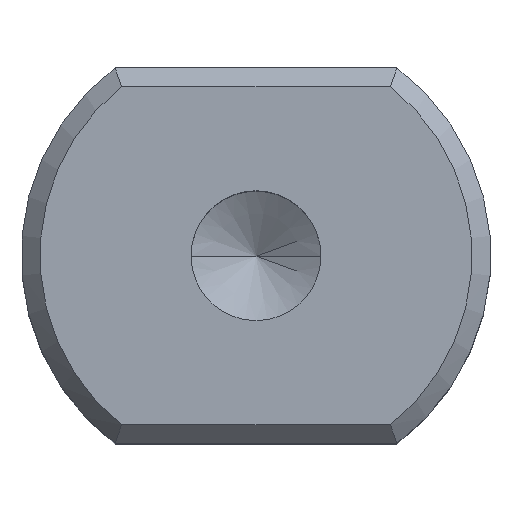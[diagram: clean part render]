
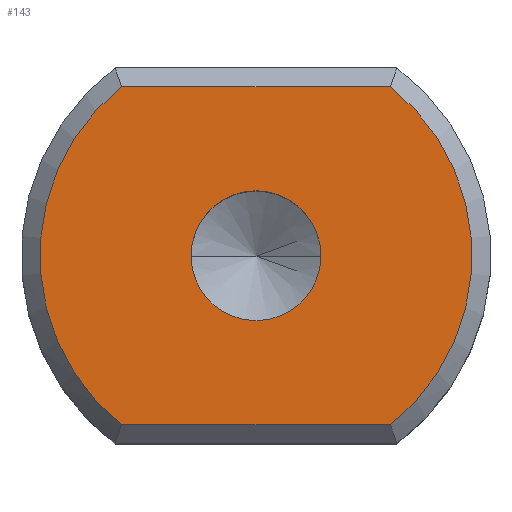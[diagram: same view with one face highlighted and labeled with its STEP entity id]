
A CAD part, top view. The second image highlights one B-rep face of the part: STEP entity #143.
In plain terms, the highlighted planar face has unit normal (0, 0, 1).
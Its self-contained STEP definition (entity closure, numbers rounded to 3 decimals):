
#2 = CIRCLE ( 'NONE', #425, 5.75 ) ;
#28 = EDGE_LOOP ( 'NONE', ( #259, #316 ) ) ;
#46 = VERTEX_POINT ( 'NONE', #683 ) ;
#50 = DIRECTION ( 'NONE',  ( 0., 1., 0. ) ) ;
#66 = DIRECTION ( 'NONE',  ( 0., 0., 1. ) ) ;
#91 = ORIENTED_EDGE ( 'NONE', *, *, #339, .T. ) ;
#99 = DIRECTION ( 'NONE',  ( 0., 0., 1. ) ) ;
#103 = DIRECTION ( 'NONE',  ( 0., 0., 1. ) ) ;
#106 = CARTESIAN_POINT ( 'NONE',  ( 0., 0., 0. ) ) ;
#127 = CARTESIAN_POINT ( 'NONE',  ( 1.727, 0., 0. ) ) ;
#129 = LINE ( 'NONE', #372, #355 ) ;
#132 = AXIS2_PLACEMENT_3D ( 'NONE', #106, #103, #573 ) ;
#135 = CARTESIAN_POINT ( 'NONE',  ( 3.579, 4.5, 0. ) ) ;
#143 = ADVANCED_FACE ( 'NONE', ( #448, #725 ), #267, .F. ) ;
#154 = VERTEX_POINT ( 'NONE', #554 ) ;
#163 = CARTESIAN_POINT ( 'NONE',  ( 0., 0., 0. ) ) ;
#165 = CIRCLE ( 'NONE', #132, 1.727 ) ;
#173 = ORIENTED_EDGE ( 'NONE', *, *, #691, .T. ) ;
#194 = CARTESIAN_POINT ( 'NONE',  ( -3.579, 4.5, 0. ) ) ;
#200 = LINE ( 'NONE', #545, #461 ) ;
#212 = VERTEX_POINT ( 'NONE', #747 ) ;
#221 = EDGE_CURVE ( 'NONE', #373, #268, #129, .T. ) ;
#243 = AXIS2_PLACEMENT_3D ( 'NONE', #366, #66, #485 ) ;
#259 = ORIENTED_EDGE ( 'NONE', *, *, #565, .F. ) ;
#267 = PLANE ( 'NONE',  #757 ) ;
#268 = VERTEX_POINT ( 'NONE', #194 ) ;
#297 = AXIS2_PLACEMENT_3D ( 'NONE', #396, #336, #753 ) ;
#316 = ORIENTED_EDGE ( 'NONE', *, *, #571, .F. ) ;
#318 = CARTESIAN_POINT ( 'NONE',  ( 0., 0., 0. ) ) ;
#336 = DIRECTION ( 'NONE',  ( 0., 0., 1. ) ) ;
#339 = EDGE_CURVE ( 'NONE', #154, #373, #420, .T. ) ;
#349 = EDGE_LOOP ( 'NONE', ( #427, #173, #91, #391 ) ) ;
#355 = VECTOR ( 'NONE', #603, 1000. ) ;
#366 = CARTESIAN_POINT ( 'NONE',  ( 0., 0., 0. ) ) ;
#372 = CARTESIAN_POINT ( 'NONE',  ( 0., 4.5, 0. ) ) ;
#373 = VERTEX_POINT ( 'NONE', #135 ) ;
#391 = ORIENTED_EDGE ( 'NONE', *, *, #221, .T. ) ;
#396 = CARTESIAN_POINT ( 'NONE',  ( 0., 0., 0. ) ) ;
#420 = CIRCLE ( 'NONE', #243, 5.75 ) ;
#425 = AXIS2_PLACEMENT_3D ( 'NONE', #163, #99, #50 ) ;
#427 = ORIENTED_EDGE ( 'NONE', *, *, #533, .T. ) ;
#431 = CIRCLE ( 'NONE', #297, 1.727 ) ;
#448 = FACE_BOUND ( 'NONE', #28, .T. ) ;
#461 = VECTOR ( 'NONE', #746, 1000. ) ;
#485 = DIRECTION ( 'NONE',  ( 0., 1., 0. ) ) ;
#502 = DIRECTION ( 'NONE',  ( 0., 1., 0. ) ) ;
#533 = EDGE_CURVE ( 'NONE', #268, #46, #2, .T. ) ;
#545 = CARTESIAN_POINT ( 'NONE',  ( 0., -4.5, 0. ) ) ;
#554 = CARTESIAN_POINT ( 'NONE',  ( 3.579, -4.5, 0. ) ) ;
#565 = EDGE_CURVE ( 'NONE', #681, #212, #431, .T. ) ;
#571 = EDGE_CURVE ( 'NONE', #212, #681, #165, .T. ) ;
#573 = DIRECTION ( 'NONE',  ( 1., 0., 0. ) ) ;
#603 = DIRECTION ( 'NONE',  ( -1., 0., 0. ) ) ;
#619 = DIRECTION ( 'NONE',  ( 0., 0., -1. ) ) ;
#681 = VERTEX_POINT ( 'NONE', #127 ) ;
#683 = CARTESIAN_POINT ( 'NONE',  ( -3.579, -4.5, 0. ) ) ;
#691 = EDGE_CURVE ( 'NONE', #46, #154, #200, .T. ) ;
#725 = FACE_OUTER_BOUND ( 'NONE', #349, .T. ) ;
#746 = DIRECTION ( 'NONE',  ( 1., 0., 0. ) ) ;
#747 = CARTESIAN_POINT ( 'NONE',  ( -1.727, 0., 0. ) ) ;
#753 = DIRECTION ( 'NONE',  ( 1., 0., 0. ) ) ;
#757 = AXIS2_PLACEMENT_3D ( 'NONE', #318, #619, #502 ) ;
